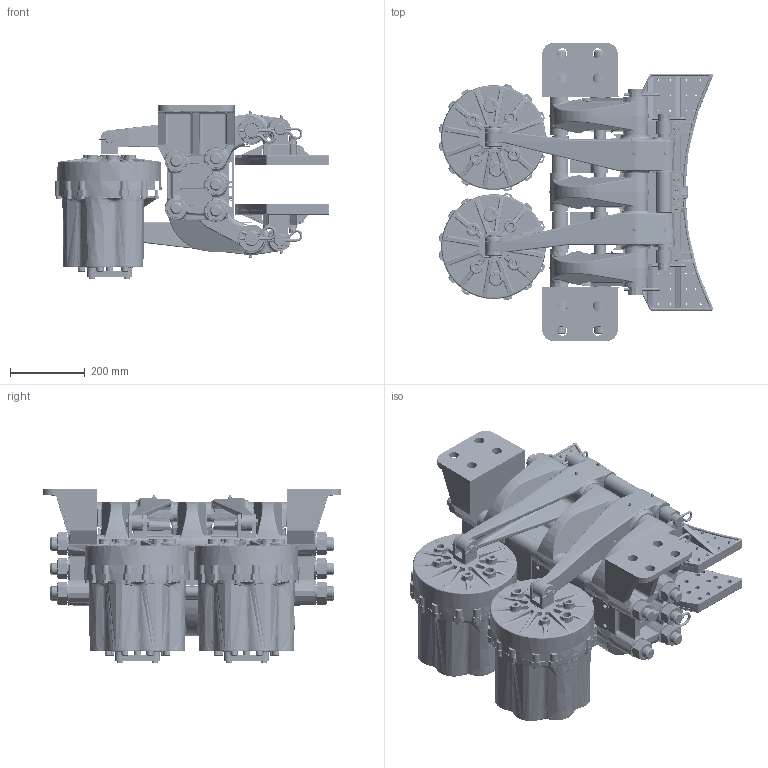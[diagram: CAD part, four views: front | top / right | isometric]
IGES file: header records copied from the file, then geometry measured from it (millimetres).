
Start section: SolidWorks IGES file using analytic representation for surfaces
Global section: file name: S:\Released Documents\CAD models\5030-SAW-LH_revB.IGS; native system: SolidWorks 2021; preprocessor: SolidWorks 2021; author: heikoe; date: 211026.115711; units: inch
Bounding box: 735 x 800.26 x 464.8 mm (x, y, z)
Surface area: 4215113.2 mm2 (no closed solid volume)
Topology: 0 solids, 0 shells, 5329 faces, 83911 edges, 83749 vertices
Faces by surface type: bspline 2756, revolution 2573
